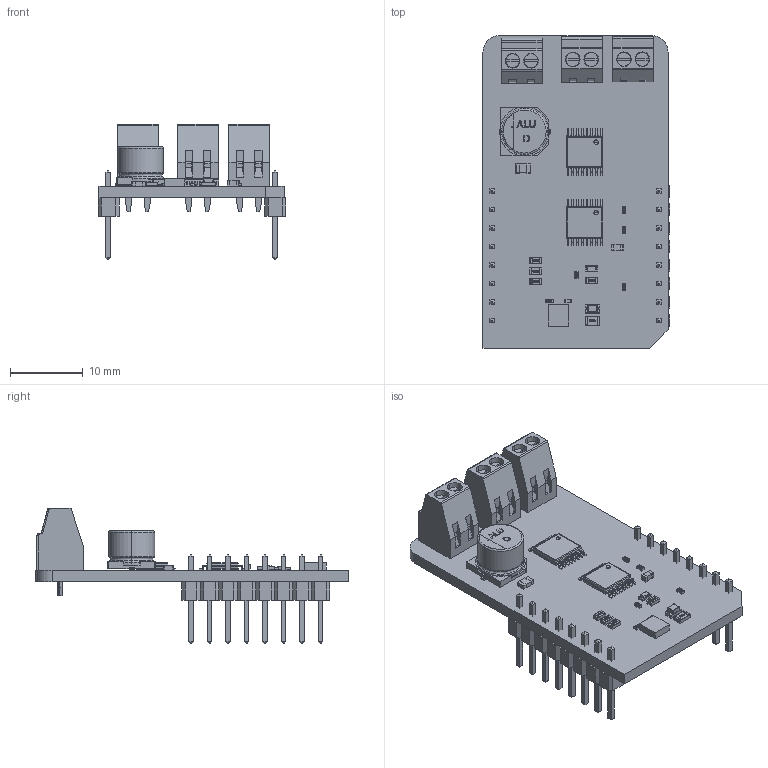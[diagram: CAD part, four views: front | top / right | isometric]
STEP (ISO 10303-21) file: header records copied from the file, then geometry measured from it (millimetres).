
FILE_DESCRIPTION(('Open CASCADE Model'),'2;1');
FILE_NAME('Open CASCADE Shape Model','2026-03-19T10:37:37',('Author'),( 'Open CASCADE'),'Open CASCADE STEP processor 6.8','Open CASCADE 6.8' ,'Unknown');
FILE_SCHEMA(('AUTOMOTIVE_DESIGN { 1 0 10303 214 1 1 1 1 }'));
Length unit declared in the file: millimetre
Products named in the file (48): PCB; Board; JP3; User_Library-R_0603; JP2; JP1; U3; User_Library-TSSOP-16; U2; TB3; ScrewTerminal_2.54; TB2; TB1; R4; User_Library-R_0402; R3; MBD1; Header_1x8; Free-Models; 1240637040; User_Library-PinHeaderX5-1_PinHeaderX5_Body_1; User_Library-PinHeaderX5-1_PinHeaderX5_Pins_1; U1; 1195633936; Extruded; C1; User_Library-SMD_CAPACITOR0402; R2; LD1; led_0805_green; R1; User_Library-R_0805; C3; User_Library-ALU-D; User_Library-ALU-D_Fuss_1; User_Library-ALU-D_Pins_1; User_Library-ALU-D_K_X_F6rper_1; User_Library-ALU-D_Beschriftung_1; C2; User_Library-SMD_CAPACITOR0805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
Assembly tree (59 placements, depth 7):
  PCB
    Board
    JP3
      User_Library-R_0603
    JP2
      User_Library-R_0603
    JP1
      User_Library-R_0603
    U3
      User_Library-TSSOP-16
    U2
      User_Library-TSSOP-16
    TB3
      ScrewTerminal_2.54
    TB2
      ScrewTerminal_2.54
    TB1
      ScrewTerminal_2.54
    R4
      User_Library-R_0402
    R3
      User_Library-R_0402
    MBD1
      Header_1x8  x2
        PCB
          Free-Models
            1240637040  x2
              User_Library-PinHeaderX5-1_PinHeaderX5_Body_1
              User_Library-PinHeaderX5-1_PinHeaderX5_Pins_1
    U1
      1195633936
        Extruded
    C1
      User_Library-SMD_CAPACITOR0402
    R2
      User_Library-R_0402
    LD1
      led_0805_green
    R1
      User_Library-R_0805
    C3
      User_Library-ALU-D
        User_Library-ALU-D_Fuss_1
        User_Library-ALU-D_Pins_1
        User_Library-ALU-D_K_X_F6rper_1
        User_Library-ALU-D_Beschriftung_1
    C2
      User_Library-SMD_CAPACITOR0805
    R5
      User_Library-R_0402
    LD2
      Led_0603_RED
    R8
      User_Library-R_0603
    C4
      User_Library-SMD_CAPACITOR0603
    R6
      User_Library-R_0402
Bounding box: 25.78 x 42.93 x 18.61 mm (x, y, z)
Volume: 2946.6 mm3; surface area: 6327.7 mm2
Topology: 82 solids, 82 shells, 2924 faces, 7490 edges, 4796 vertices
Faces by surface type: plane 2045, cylinder 421, bspline 406, sphere 52
Entity records: 53615 total; most frequent: CARTESIAN_POINT 14831, ORIENTED_EDGE 6672, DIRECTION 5978, EDGE_CURVE 3336, LINE 2482, VECTOR 2482, VERTEX_POINT 2131, AXIS2_PLACEMENT_3D 1748
